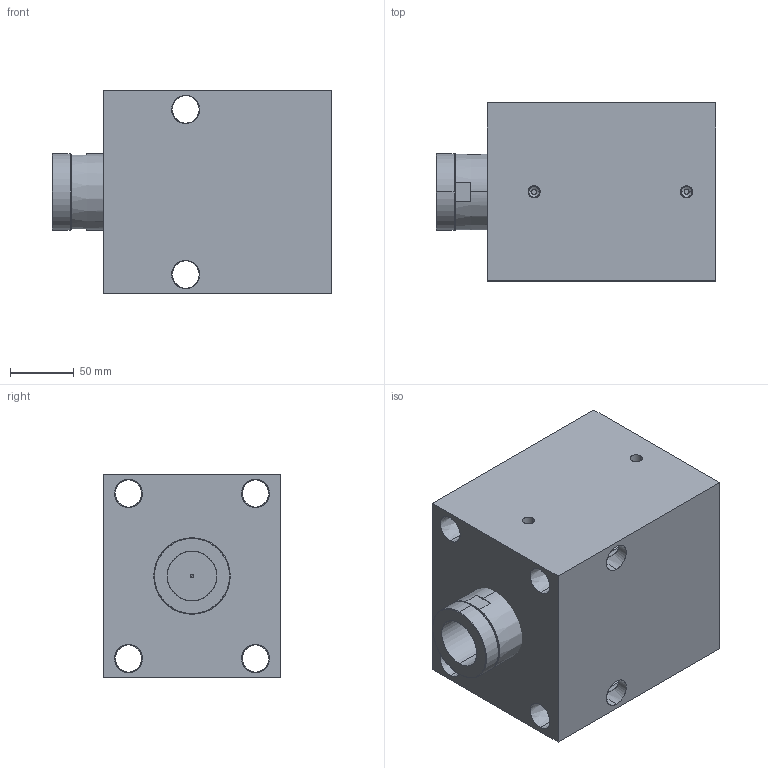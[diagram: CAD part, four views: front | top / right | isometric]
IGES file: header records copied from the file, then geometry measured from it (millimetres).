
Start section: SolidWorks IGES file using analytic representation for surfaces
Global section: file name: C:\Documents and Settings\rajib\Desktop\Rajib\BLOCK CYLINDER HYDRAULIC\0901-0906\IGES 0901-0908\0902.IGS; native system: SolidWorks 2007; preprocessor: SolidWorks 2007; author: rajib; date: 110121.165115; units: millimetre
Bounding box: 220 x 140 x 160 mm (x, y, z)
Surface area: 244925.3 mm2 (no closed solid volume)
Topology: 0 solids, 0 shells, 80 faces, 2048 edges, 2046 vertices
Faces by surface type: revolution 58, bspline 22
